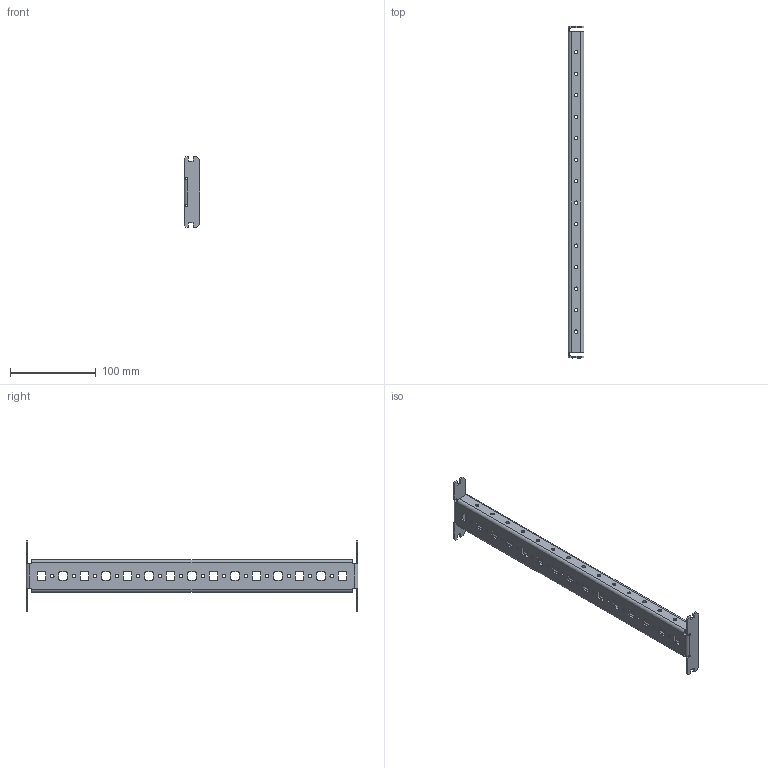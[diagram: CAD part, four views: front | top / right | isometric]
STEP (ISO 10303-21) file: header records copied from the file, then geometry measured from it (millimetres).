
FILE_DESCRIPTION (( 'STEP AP203' ), '1' );
FILE_NAME ('MG 50.04 CL Òðàâåðñà ìîíòàæíàÿ.STEP', '2015-07-21T10:50:14', ( 'System' ), ( '' ), 'SwSTEP 2.0', 'SolidWorks 2012', '' );
FILE_SCHEMA (( 'CONFIG_CONTROL_DESIGN' ));
Length unit declared in the file: millimetre
Products named in the file (1): MG 50.04 CL Òðàâåðñà ìîíòàæíàÿ
Bounding box: 18.5 x 386 x 82.5 mm (x, y, z)
Volume: 64838.9 mm3; surface area: 69548.5 mm2
Topology: 1 solids, 1 shells, 296 faces, 850 edges, 556 vertices
Faces by surface type: cylinder 162, plane 134
Entity records: 10067 total; most frequent: DIRECTION 1768, CARTESIAN_POINT 1703, ORIENTED_EDGE 1700, EDGE_CURVE 850, AXIS2_PLACEMENT_3D 621, VERTEX_POINT 556, LINE 526, VECTOR 526
